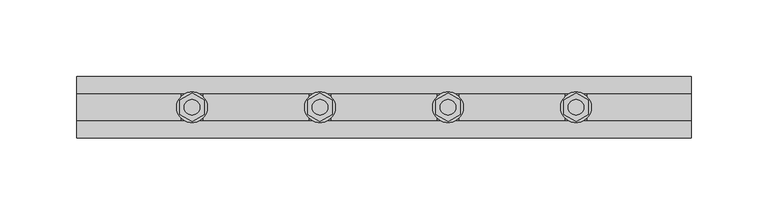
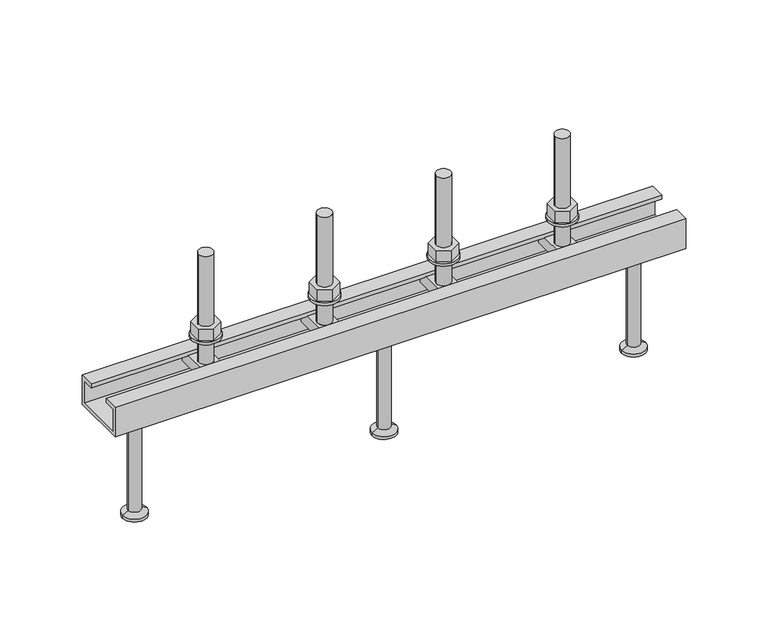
"""IFC4 building model written with IfcOpenShell, lengths in millimetres: fastener geometry, JTA-W JORDAHL® AnchorChannels : JTA-W L=400 mm."""

import ifcopenshell
import ifcopenshell.guid

model = None  # the IFC model being written
_history = None  # IfcOwnerHistory: only IFC2X3 demands one
_inside = {}  # id of a spatial element -> (the spatial element, [elements in it])
_under = {}  # id of a project, library or spatial element -> (it, [spatial elements below it])
_declared = {}  # id of a project -> (the project, [libraries it declares])
_typed = {}  # id of a type object -> (the type object, [elements of that type])
_made_of = {}  # id of a material, layer set ... -> (it, [elements and type objects made of it])


def new_model(schema):
    """Start an empty IFC model of exactly this schema.

    Asked for "IFC4X3", IfcOpenShell would pick the latest addendum, in which some entities
    have other attributes; the version numbers below select the first issue.
    IFC2X3 requires an IfcOwnerHistory on every rooted entity: one is made here for all.
    """
    global model, _history
    if schema == "IFC4X3":
        model = ifcopenshell.file(schema_version=(4, 3, 0, 0))
    else:
        model = ifcopenshell.file(schema=schema)
    _inside.clear()
    _under.clear()
    _declared.clear()
    _typed.clear()
    _made_of.clear()
    _history = None
    if model.schema == "IFC2X3":
        org = make("IfcOrganization", Name="unknown")
        user = make(
            "IfcPersonAndOrganization",
            ThePerson=make("IfcPerson", FamilyName="unknown"),
            TheOrganization=org,
        )
        app = make(
            "IfcApplication",
            ApplicationDeveloper=org,
            Version="unknown",
            ApplicationFullName="unknown",
            ApplicationIdentifier="unknown",
        )
        _history = make(
            "IfcOwnerHistory",
            OwningUser=user,
            OwningApplication=app,
            ChangeAction="ADDED",
            CreationDate=0,
        )
    return model


def make(cls, **values):
    """One entity of the class cls with the attributes given. An attribute that is None is left unset."""
    return model.create_entity(
        cls, **{name: value for name, value in values.items() if value is not None}
    )


def rooted(cls, **values):
    """An entity with a GlobalId (a new one), such as an element, a storey or a relation."""
    return make(cls, GlobalId=ifcopenshell.guid.new(), OwnerHistory=_history, **values)


def si_unit(unit_type, name, prefix=None):
    """IfcSIUnit, for example si_unit("LENGTHUNIT", "METRE", prefix="MILLI")."""
    return make("IfcSIUnit", UnitType=unit_type, Prefix=prefix, Name=name)


def assignment(units):
    """IfcUnitAssignment: the units of a project."""
    return None if units is None else make("IfcUnitAssignment", Units=units)


def point(xyz):
    """IfcCartesianPoint."""
    return None if xyz is None else make("IfcCartesianPoint", Coordinates=xyz)


def direction(xyz):
    """IfcDirection."""
    return None if xyz is None else make("IfcDirection", DirectionRatios=xyz)


def frame(location, z_axis=None, x_axis=None):
    """IfcAxis2Placement3D, a coordinate frame: its origin and axes. An axis left out is left unset."""
    return make(
        "IfcAxis2Placement3D",
        Location=point(location),
        Axis=direction(z_axis),
        RefDirection=direction(x_axis),
    )


def frame_2d(location, x_axis=None):
    """IfcAxis2Placement2D, a coordinate frame in the plane: its origin and x axis."""
    return make(
        "IfcAxis2Placement2D", Location=point(location), RefDirection=direction(x_axis)
    )


def origin():
    """The frame at (0, 0, 0) with its axes left unset."""
    return frame((0.0, 0.0, 0.0))


def place(relative_to, where):
    """IfcLocalPlacement: puts the frame where relative to a parent placement (None: the world)."""
    return make(
        "IfcLocalPlacement", PlacementRelTo=relative_to, RelativePlacement=where
    )


def context(
    kind, dimensions, precision=None, world=None, true_north=None, identifier=None
):
    """IfcGeometricRepresentationContext, for example the 3D "Model" context."""
    return make(
        "IfcGeometricRepresentationContext",
        ContextIdentifier=identifier,
        ContextType=kind,
        CoordinateSpaceDimension=dimensions,
        Precision=precision,
        WorldCoordinateSystem=world,
        TrueNorth=true_north,
    )


def project(units=None, contexts=None):
    """IfcProject with its units and contexts."""
    return rooted(
        "IfcProject",
        Name="project",
        RepresentationContexts=contexts,
        UnitsInContext=assignment(units),
    )


def spatial(cls, under=None, at=None, **own):
    """A site, building, storey or space (cls), placed at a placement, below another one or the project."""
    s = rooted(cls, ObjectPlacement=at, **own)
    if under is not None:
        _under.setdefault(under.id(), (under, []))[1].append(s)
    return s


def polyline(points):
    """IfcPolyline through the points."""
    return make("IfcPolyline", Points=[point(p) for p in points])


def circle_curve(where, radius):
    """IfcCircle in the frame where."""
    return make("IfcCircle", Position=where, Radius=radius)


def trimmed(basis, trim1, trim2, sense, master):
    """IfcTrimmedCurve: the piece of a basis curve between two trims."""
    return make(
        "IfcTrimmedCurve",
        BasisCurve=basis,
        Trim1=trim1,
        Trim2=trim2,
        SenseAgreement=sense,
        MasterRepresentation=master,
    )


def segment(curve, same_sense, transition):
    """IfcCompositeCurveSegment."""
    return make(
        "IfcCompositeCurveSegment",
        Transition=transition,
        SameSense=same_sense,
        ParentCurve=curve,
    )


def composite_curve(segments, self_intersect=None):
    """IfcCompositeCurve: segments joined end to end."""
    return make("IfcCompositeCurve", Segments=segments, SelfIntersect=self_intersect)


def outline(outer, holes=None, kind="AREA"):
    """IfcArbitraryClosedProfileDef: a profile drawn as a closed curve; with holes, ...WithVoids."""
    if holes is None:
        return make("IfcArbitraryClosedProfileDef", ProfileType=kind, OuterCurve=outer)
    return make(
        "IfcArbitraryProfileDefWithVoids",
        ProfileType=kind,
        OuterCurve=outer,
        InnerCurves=holes,
    )


def extrude(swept, where, along, depth):
    """IfcExtrudedAreaSolid: the profile swept, set in the frame where, extruded along a direction by depth."""
    return make(
        "IfcExtrudedAreaSolid",
        SweptArea=swept,
        Position=where,
        ExtrudedDirection=direction(along),
        Depth=depth,
    )


def shape(context_of_items, identifier, shape_type, items):
    """IfcShapeRepresentation: the items that make up one representation, for example the "Body"."""
    return make(
        "IfcShapeRepresentation",
        ContextOfItems=context_of_items,
        RepresentationIdentifier=identifier,
        RepresentationType=shape_type,
        Items=items,
    )


def source(mapping_origin, context_of_items, identifier, shape_type, items):
    """IfcRepresentationMap: a shape defined once, which mapped items show again and again."""
    return make(
        "IfcRepresentationMap",
        MappingOrigin=mapping_origin,
        MappedRepresentation=shape(context_of_items, identifier, shape_type, items),
    )


def transform(
    local_origin,
    x_axis=None,
    y_axis=None,
    z_axis=None,
    scale=None,
    scale2=None,
    scale3=None,
    uniform=True,
):
    """IfcCartesianTransformationOperator3D, or its non-uniform kind. x_axis, y_axis, z_axis: its Axis1, 2, 3."""
    if uniform:
        return make(
            "IfcCartesianTransformationOperator3D",
            Axis1=direction(x_axis),
            Axis2=direction(y_axis),
            LocalOrigin=point(local_origin),
            Scale=scale,
            Axis3=direction(z_axis),
        )
    return make(
        "IfcCartesianTransformationOperator3DnonUniform",
        Axis1=direction(x_axis),
        Axis2=direction(y_axis),
        LocalOrigin=point(local_origin),
        Scale=scale,
        Axis3=direction(z_axis),
        Scale2=scale2,
        Scale3=scale3,
    )


def mapped(mapping_source, mapping_target):
    """IfcMappedItem: shows the shape of a source again, moved by a transform."""
    return make(
        "IfcMappedItem", MappingSource=mapping_source, MappingTarget=mapping_target
    )


def made_of(thing, what):
    """Note that an element or type object is made of a material, layer set ...; save() writes the relation."""
    if what is not None:
        _made_of.setdefault(what.id(), (what, []))[1].append(thing)
    return thing


def element(
    cls,
    number,
    at=None,
    inside=None,
    cuts=None,
    type_object=None,
    material=None,
    context=None,
    identifier="Body",
    shape_type=None,
    held_by="IfcProductDefinitionShape",
    body=None,
    shapes=None,
    **own,
):
    """One element of the class cls, such as IfcWall. Its Tag is "e" and its number.

    at: its placement. inside: the storey or other place that contains it. cuts: it is an
    opening in that element (IfcRelVoidsElement). A single representation is given by context,
    identifier, shape_type and body (its items); several are given by shapes. held_by: the class
    of the entity that holds the representations. save() writes the other relations.
    """
    e = rooted(cls, Tag="e%d" % number, ObjectPlacement=at, **own)
    if body is not None:
        shapes = [shape(context, identifier, shape_type, body)]
    if shapes is not None:
        e.Representation = make(held_by, Representations=shapes)
    if inside is not None:
        _inside.setdefault(inside.id(), (inside, []))[1].append(e)
    if cuts is not None:
        rooted(
            "IfcRelVoidsElement", RelatingBuildingElement=cuts, RelatedOpeningElement=e
        )
    if type_object is not None:
        _typed.setdefault(type_object.id(), (type_object, []))[1].append(e)
    return made_of(e, material)


def aggregate(whole, parts):
    """IfcRelAggregates: a whole, such as a stair, and the parts it consists of."""
    return rooted("IfcRelAggregates", RelatingObject=whole, RelatedObjects=parts)


def save(model, path):
    """Write the relations noted so far, then the file.

    IfcRelAggregates (storeys below a building ...), IfcRelContainedInSpatialStructure (elements
    in a storey), IfcRelDefinesByType, IfcRelAssociatesMaterial and IfcRelDeclares: one each for
    every whole, place, type object, material and project.
    """
    for whole, parts in _under.values():
        aggregate(whole, parts)
    for where, things in _inside.values():
        rooted(
            "IfcRelContainedInSpatialStructure",
            RelatedElements=things,
            RelatingStructure=where,
        )
    for kind, things in _typed.values():
        rooted("IfcRelDefinesByType", RelatedObjects=things, RelatingType=kind)
    for what, things in _made_of.values():
        rooted("IfcRelAssociatesMaterial", RelatedObjects=things, RelatingMaterial=what)
    for by, libraries in _declared.values():
        rooted("IfcRelDeclares", RelatingContext=by, RelatedDefinitions=libraries)
    model.write(path)


def plane_surface(at):
    """IfcPlane: the flat surface through the origin of the frame at, square to its z axis."""
    return make("IfcPlane", Position=at)


def cylinder_surface(at, radius):
    """IfcCylindricalSurface: all points at the distance radius from the z axis of the frame at."""
    return make("IfcCylindricalSurface", Position=at, Radius=radius)


def revolved_surface(curve, axis_point, axis_direction):
    """IfcSurfaceOfRevolution: the curve turned about the line through axis_point along axis_direction."""
    return make(
        "IfcSurfaceOfRevolution",
        SweptCurve=make("IfcArbitraryOpenProfileDef", ProfileType="CURVE", Curve=curve),
        AxisPosition=make("IfcAxis1Placement", Location=point(axis_point), Axis=direction(axis_direction)),
    )


def advanced_brep(points, edges, surfaces, faces):
    """IfcAdvancedBrep: a solid bounded by faces that lie on surfaces and meet in shared edges.

    An edge is (start, end): straight between two places in points (the first is 0);
    or (start, end, curve); or (start, end, curve, False) where it runs against its curve.
    A face is (place in surfaces, loops), or (place, loops, False) where it looks against
    its surface's normal. A loop lists edges by number (the first is 1), with a minus sign
    where the edge is run from its end to its start. The first loop is the outer one.
    """
    corners = [point(p) for p in points]
    vertices = [make("IfcVertexPoint", VertexGeometry=c) for c in corners]
    made = []
    for start, end, *more in edges:
        made.append(
            make(
                "IfcEdgeCurve",
                EdgeStart=vertices[start],
                EdgeEnd=vertices[end],
                EdgeGeometry=more[0] if more else make("IfcPolyline", Points=[corners[start], corners[end]]),
                SameSense=more[1] if len(more) > 1 else True,
            )
        )
    hull = []
    for where, loops, *sense in faces:
        bounds = []
        for j, loop in enumerate(loops):
            ring = [make("IfcOrientedEdge", EdgeElement=made[abs(k) - 1], Orientation=k > 0) for k in loop]
            bounds.append(
                make(
                    "IfcFaceOuterBound" if j == 0 else "IfcFaceBound",
                    Bound=make("IfcEdgeLoop", EdgeList=ring),
                    Orientation=True,
                )
            )
        hull.append(make("IfcAdvancedFace", Bounds=bounds, FaceSurface=surfaces[where], SameSense=sense[0] if sense else True))
    return make("IfcAdvancedBrep", Outer=make("IfcClosedShell", CfsFaces=hull))


def fastener_f3c3fdf5(model_context):
    return source(origin(), model_context, "Body", "SolidModel", [
        extrude(outline(polyline([(241.6666667, 9.2376043), (249.6666667, 4.6188022), (249.6666667, -4.6188022), (241.6666667, -9.2376043), (233.6666667, -4.6188022), (233.6666667, 4.6188022), (241.6666667, 9.2376043)]), holes=[composite_curve([segment(trimmed(circle_curve(frame_2d((241.6666667, 0.0)), 5.0), [point((236.6666667, 0.0))], [point((246.6666667, 0.0))], True, "CARTESIAN"), True, "CONTINUOUS"), segment(trimmed(circle_curve(frame_2d((241.6666667, 0.0)), 5.0), [point((246.6666667, 0.0))], [point((236.6666667, 0.0))], True, "CARTESIAN"), True, "CONTINUOUS")], self_intersect=False)]), frame((0.0, 0.0, 17.0), z_axis=(0.0, 0.0, 1.0), x_axis=(1.0, 0.0, 0.0)), (0.0, 0.0, 1.0), 8.4),
        extrude(outline(composite_curve([segment(trimmed(circle_curve(frame_2d((241.6666667, 0.0)), 10.0), [point((231.6666667, 0.0))], [point((251.6666667, 0.0))], False, "CARTESIAN"), True, "CONTINUOUS"), segment(trimmed(circle_curve(frame_2d((241.6666667, 0.0)), 10.0), [point((251.6666667, 0.0))], [point((231.6666667, 0.0))], False, "CARTESIAN"), True, "CONTINUOUS")], self_intersect=False), holes=[composite_curve([segment(trimmed(circle_curve(frame_2d((241.6666667, 0.0)), 5.25), [point((236.4166667, 0.0))], [point((246.9166667, 0.0))], True, "CARTESIAN"), True, "CONTINUOUS"), segment(trimmed(circle_curve(frame_2d((241.6666667, 0.0)), 5.25), [point((246.9166667, 0.0))], [point((236.4166667, 0.0))], True, "CARTESIAN"), True, "CONTINUOUS")], self_intersect=False)]), frame((0.0, 0.0, 15.0), z_axis=(0.0, 0.0, 1.0), x_axis=(1.0, 0.0, 0.0)), (0.0, 0.0, 1.0), 2.0),
        extrude(outline(polyline([(158.3333333, 9.2376043), (166.3333333, 4.6188022), (166.3333333, -4.6188022), (158.3333333, -9.2376043), (150.3333333, -4.6188022), (150.3333333, 4.6188022), (158.3333333, 9.2376043)]), holes=[composite_curve([segment(trimmed(circle_curve(frame_2d((158.3333333, 0.0)), 5.0), [point((153.3333333, 0.0))], [point((163.3333333, 0.0))], True, "CARTESIAN"), True, "CONTINUOUS"), segment(trimmed(circle_curve(frame_2d((158.3333333, 0.0)), 5.0), [point((163.3333333, 0.0))], [point((153.3333333, 0.0))], True, "CARTESIAN"), True, "CONTINUOUS")], self_intersect=False)]), frame((0.0, 0.0, 17.0), z_axis=(0.0, 0.0, 1.0), x_axis=(1.0, 0.0, 0.0)), (0.0, 0.0, 1.0), 8.4),
        extrude(outline(composite_curve([segment(trimmed(circle_curve(frame_2d((158.3333333, 0.0)), 10.0), [point((148.3333333, 0.0))], [point((168.3333333, 0.0))], False, "CARTESIAN"), True, "CONTINUOUS"), segment(trimmed(circle_curve(frame_2d((158.3333333, 0.0)), 10.0), [point((168.3333333, 0.0))], [point((148.3333333, 0.0))], False, "CARTESIAN"), True, "CONTINUOUS")], self_intersect=False), holes=[composite_curve([segment(trimmed(circle_curve(frame_2d((158.3333333, 0.0)), 5.25), [point((153.0833333, 0.0))], [point((163.5833333, 0.0))], True, "CARTESIAN"), True, "CONTINUOUS"), segment(trimmed(circle_curve(frame_2d((158.3333333, 0.0)), 5.25), [point((163.5833333, 0.0))], [point((153.0833333, 0.0))], True, "CARTESIAN"), True, "CONTINUOUS")], self_intersect=False)]), frame((0.0, 0.0, 15.0), z_axis=(0.0, 0.0, 1.0), x_axis=(1.0, 0.0, 0.0)), (0.0, 0.0, 1.0), 2.0),
        advanced_brep(
        [(248.6666667, 16.25, -3.0), (248.6666667, -16.25, -3.0), (248.6666667, -16.25, -11.0), (248.6666667, 16.25, -11.0), (234.6666667, 16.25, -3.0), (234.6666667, 16.25, -11.0), (234.6666667, -16.25, -11.0), (234.6666667, -16.25, -3.0), (246.6666667, 0.0, -3.0), (236.6666667, 0.0, -3.0), (236.6666667, 0.0, 77.0), (246.6666667, 0.0, 77.0)],
        [
            (0, 1),
            (1, 2),
            (2, 3),
            (3, 0),
            (4, 5),
            (5, 6),
            (6, 7),
            (7, 4),
            (0, 4),
            (7, 1),
            (8, 9, circle_curve(frame((241.6666667, 0.0, -3.0), z_axis=(0.0, 0.0, -1.0), x_axis=(1.0, 0.0, 0.0)), 5.0)),
            (9, 8, circle_curve(frame((241.6666667, 0.0, -3.0), z_axis=(0.0, 0.0, -1.0), x_axis=(1.0, 0.0, 0.0)), 5.0)),
            (6, 2),
            (5, 3),
            (10, 11, circle_curve(frame((241.6666667, 0.0, 77.0), z_axis=(0.0, 0.0, 1.0), x_axis=(1.0, 0.0, 0.0)), 5.0)),
            (11, 10, circle_curve(frame((241.6666667, 0.0, 77.0), z_axis=(0.0, 0.0, 1.0), x_axis=(1.0, 0.0, 0.0)), 5.0)),
            (10, 9),
            (8, 11),
        ],
        [
            plane_surface(frame((248.6666667, -16.25, -3.0), z_axis=(1.0, 0.0, 0.0), x_axis=(0.0, -1.0, 0.0))),
            plane_surface(frame((234.6666667, -16.25, -3.0), z_axis=(-1.0, 0.0, 0.0), x_axis=(0.0, 1.0, 0.0))),
            plane_surface(frame((248.6666667, 16.25, -3.0), z_axis=(0.0, 0.0, 1.0), x_axis=(-1.0, 0.0, 0.0))),
            plane_surface(frame((248.6666667, -16.25, -3.0), z_axis=(0.0, -1.0, 0.0), x_axis=(-1.0, 0.0, 0.0))),
            plane_surface(frame((248.6666667, -16.25, -11.0), z_axis=(0.0, 0.0, -1.0), x_axis=(-1.0, 0.0, 0.0))),
            plane_surface(frame((248.6666667, 16.25, -11.0), z_axis=(0.0, 1.0, 0.0), x_axis=(-1.0, 0.0, 0.0))),
            plane_surface(frame((246.6666667, 0.0, 77.0), z_axis=(0.0, 0.0, 1.0), x_axis=(0.0, 1.0, 0.0))),
            cylinder_surface(frame((241.6666667, 0.0, -3.0), z_axis=(0.0, 0.0, 1.0), x_axis=(1.0, 0.0, 0.0)), 5.0),
        ],
        [
            (0, [[1, 2, 3, 4]]),
            (1, [[5, 6, 7, 8]]),
            (2, [[-1, 9, -8, 10], [11, 12]]),
            (3, [[-2, -10, -7, 13]]),
            (4, [[-3, -13, -6, 14]]),
            (5, [[-4, -14, -5, -9]]),
            (6, [[15, 16]]),
            (7, [[-15, 17, -11, 18]]),
            (7, [[-16, -18, -12, -17]]),
        ],
    ),
        advanced_brep(
        [(165.3333333, 16.25, -3.0), (165.3333333, -16.25, -3.0), (165.3333333, -16.25, -11.0), (165.3333333, 16.25, -11.0), (151.3333333, 16.25, -3.0), (151.3333333, 16.25, -11.0), (151.3333333, -16.25, -11.0), (151.3333333, -16.25, -3.0), (163.3333333, 0.0, -3.0), (153.3333333, 0.0, -3.0), (153.3333333, 0.0, 77.0), (163.3333333, 0.0, 77.0)],
        [
            (0, 1),
            (1, 2),
            (2, 3),
            (3, 0),
            (4, 5),
            (5, 6),
            (6, 7),
            (7, 4),
            (0, 4),
            (7, 1),
            (8, 9, circle_curve(frame((158.3333333, 0.0, -3.0), z_axis=(0.0, 0.0, -1.0), x_axis=(1.0, 0.0, 0.0)), 5.0)),
            (9, 8, circle_curve(frame((158.3333333, 0.0, -3.0), z_axis=(0.0, 0.0, -1.0), x_axis=(1.0, 0.0, 0.0)), 5.0)),
            (6, 2),
            (5, 3),
            (10, 11, circle_curve(frame((158.3333333, 0.0, 77.0), z_axis=(0.0, 0.0, 1.0), x_axis=(1.0, 0.0, 0.0)), 5.0)),
            (11, 10, circle_curve(frame((158.3333333, 0.0, 77.0), z_axis=(0.0, 0.0, 1.0), x_axis=(1.0, 0.0, 0.0)), 5.0)),
            (10, 9),
            (8, 11),
        ],
        [
            plane_surface(frame((165.3333333, -16.25, -3.0), z_axis=(1.0, 0.0, 0.0), x_axis=(0.0, -1.0, 0.0))),
            plane_surface(frame((151.3333333, -16.25, -3.0), z_axis=(-1.0, 0.0, 0.0), x_axis=(0.0, 1.0, 0.0))),
            plane_surface(frame((165.3333333, 16.25, -3.0), z_axis=(0.0, 0.0, 1.0), x_axis=(-1.0, 0.0, 0.0))),
            plane_surface(frame((165.3333333, -16.25, -3.0), z_axis=(0.0, -1.0, 0.0), x_axis=(-1.0, 0.0, 0.0))),
            plane_surface(frame((165.3333333, -16.25, -11.0), z_axis=(0.0, 0.0, -1.0), x_axis=(-1.0, 0.0, 0.0))),
            plane_surface(frame((165.3333333, 16.25, -11.0), z_axis=(0.0, 1.0, 0.0), x_axis=(-1.0, 0.0, 0.0))),
            plane_surface(frame((163.3333333, 0.0, 77.0), z_axis=(0.0, 0.0, 1.0), x_axis=(0.0, 1.0, 0.0))),
            cylinder_surface(frame((158.3333333, 0.0, -3.0), z_axis=(0.0, 0.0, 1.0), x_axis=(1.0, 0.0, 0.0)), 5.0),
        ],
        [
            (0, [[1, 2, 3, 4]]),
            (1, [[5, 6, 7, 8]]),
            (2, [[-1, 9, -8, 10], [11, 12]]),
            (3, [[-2, -10, -7, 13]]),
            (4, [[-3, -13, -6, 14]]),
            (5, [[-4, -14, -5, -9]]),
            (6, [[15, 16]]),
            (7, [[-15, 17, -11, 18]]),
            (7, [[-16, -18, -12, -17]]),
        ],
    ),
        advanced_brep(
        [(200.0, 0.0, -22.0), (213.5, 0.0, -22.0), (186.5, 0.0, -22.0), (191.5, 0.0, -100.0), (208.5, 0.0, -100.0), (200.0, 0.0, -100.0), (191.5, 0.0, -98.0), (208.5, 0.0, -98.0), (195.5, 0.0, -95.6905989), (204.5, 0.0, -95.6905989), (195.5, 0.0, -24.5), (204.5, 0.0, -24.5)],
        [
            (0, 1),
            (1, 2, circle_curve(frame((200.0, 0.0, -22.0), z_axis=(0.0, 0.0, 1.0), x_axis=(1.0, 0.0, 0.0)), 13.5)),
            (2, 0),
            (2, 1, circle_curve(frame((200.0, 0.0, -22.0), z_axis=(0.0, 0.0, 1.0), x_axis=(1.0, 0.0, 0.0)), 13.5)),
            (3, 4, circle_curve(frame((200.0, 0.0, -100.0), z_axis=(0.0, 0.0, -1.0), x_axis=(1.0, 0.0, 0.0)), 8.5)),
            (4, 5),
            (5, 3),
            (4, 3, circle_curve(frame((200.0, 0.0, -100.0), z_axis=(0.0, 0.0, -1.0), x_axis=(1.0, 0.0, 0.0)), 8.5)),
            (6, 7, circle_curve(frame((200.0, 0.0, -98.0), z_axis=(0.0, 0.0, -1.0), x_axis=(1.0, 0.0, 0.0)), 8.5)),
            (7, 4),
            (3, 6),
            (7, 6, circle_curve(frame((200.0, 0.0, -98.0), z_axis=(0.0, 0.0, -1.0), x_axis=(1.0, 0.0, 0.0)), 8.5)),
            (8, 9, circle_curve(frame((200.0, 0.0, -95.6905989), z_axis=(0.0, 0.0, -1.0), x_axis=(1.0, 0.0, 0.0)), 4.5)),
            (9, 7),
            (6, 8),
            (9, 8, circle_curve(frame((200.0, 0.0, -95.6905989), z_axis=(0.0, 0.0, -1.0), x_axis=(1.0, 0.0, 0.0)), 4.5)),
            (10, 11, circle_curve(frame((200.0, 0.0, -24.5), z_axis=(0.0, 0.0, -1.0), x_axis=(1.0, 0.0, 0.0)), 4.5)),
            (11, 9),
            (8, 10),
            (11, 10, circle_curve(frame((200.0, 0.0, -24.5), z_axis=(0.0, 0.0, -1.0), x_axis=(1.0, 0.0, 0.0)), 4.5)),
            (1, 11),
            (10, 2),
        ],
        [
            plane_surface(frame((200.0, 0.0, -22.0), z_axis=(0.0, 0.0, 1.0), x_axis=(1.0, 0.0, 0.0))),
            plane_surface(frame((200.0, 0.0, -100.0), z_axis=(0.0, 0.0, -1.0), x_axis=(1.0, 0.0, 0.0))),
            cylinder_surface(frame((200.0, 0.0, 2292.3150031), z_axis=(0.0, 0.0, 1.0), x_axis=(1.0, 0.0, 0.0)), 8.5),
            revolved_surface(polyline([(208.5, 0.0, -98.0), (204.5, 0.0, -95.6905989)]), (200.0, 0.0, 2292.3150031), (0.0, 0.0, 1.0)),
            cylinder_surface(frame((200.0, 0.0, 2292.3150031), z_axis=(0.0, 0.0, 1.0), x_axis=(1.0, 0.0, 0.0)), 4.5),
            revolved_surface(polyline([(204.5, 0.0, -24.5), (213.5, 0.0, -22.0)]), (200.0, 0.0, 2292.3150031), (0.0, 0.0, 1.0)),
        ],
        [
            (0, [[1, 2, 3]]),
            (0, [[-3, 4, -1]]),
            (1, [[5, 6, 7]]),
            (1, [[8, -7, -6]]),
            (2, [[9, 10, -5, 11]]),
            (2, [[12, -11, -8, -10]]),
            (3, [[13, 14, -9, 15]]),
            (3, [[16, -15, -12, -14]]),
            (4, [[17, 18, -13, 19]]),
            (4, [[20, -19, -16, -18]]),
            (5, [[-2, 21, -17, 22]]),
            (5, [[-4, -22, -20, -21]]),
        ],
    ),
        extrude(outline(polyline([(325.0, 9.2376043), (333.0, 4.6188022), (333.0, -4.6188022), (325.0, -9.2376043), (317.0, -4.6188022), (317.0, 4.6188022), (325.0, 9.2376043)]), holes=[composite_curve([segment(trimmed(circle_curve(frame_2d((325.0, 0.0)), 5.0), [point((320.0, 0.0))], [point((330.0, 0.0))], True, "CARTESIAN"), True, "CONTINUOUS"), segment(trimmed(circle_curve(frame_2d((325.0, 0.0)), 5.0), [point((330.0, 0.0))], [point((320.0, 0.0))], True, "CARTESIAN"), True, "CONTINUOUS")], self_intersect=False)]), frame((0.0, 0.0, 17.0), z_axis=(0.0, 0.0, 1.0), x_axis=(1.0, 0.0, 0.0)), (0.0, 0.0, 1.0), 8.4),
        extrude(outline(composite_curve([segment(trimmed(circle_curve(frame_2d((325.0, 0.0)), 10.0), [point((315.0, 0.0))], [point((335.0, 0.0))], False, "CARTESIAN"), True, "CONTINUOUS"), segment(trimmed(circle_curve(frame_2d((325.0, 0.0)), 10.0), [point((335.0, 0.0))], [point((315.0, 0.0))], False, "CARTESIAN"), True, "CONTINUOUS")], self_intersect=False), holes=[composite_curve([segment(trimmed(circle_curve(frame_2d((325.0, 0.0)), 5.25), [point((319.75, 0.0))], [point((330.25, 0.0))], True, "CARTESIAN"), True, "CONTINUOUS"), segment(trimmed(circle_curve(frame_2d((325.0, 0.0)), 5.25), [point((330.25, 0.0))], [point((319.75, 0.0))], True, "CARTESIAN"), True, "CONTINUOUS")], self_intersect=False)]), frame((0.0, 0.0, 15.0), z_axis=(0.0, 0.0, 1.0), x_axis=(1.0, 0.0, 0.0)), (0.0, 0.0, 1.0), 2.0),
        extrude(outline(polyline([(75.0, 9.2376043), (83.0, 4.6188022), (83.0, -4.6188022), (75.0, -9.2376043), (67.0, -4.6188022), (67.0, 4.6188022), (75.0, 9.2376043)]), holes=[composite_curve([segment(trimmed(circle_curve(frame_2d((75.0, 0.0)), 5.0), [point((70.0, 0.0))], [point((80.0, 0.0))], True, "CARTESIAN"), True, "CONTINUOUS"), segment(trimmed(circle_curve(frame_2d((75.0, 0.0)), 5.0), [point((80.0, 0.0))], [point((70.0, 0.0))], True, "CARTESIAN"), True, "CONTINUOUS")], self_intersect=False)]), frame((0.0, 0.0, 17.0), z_axis=(0.0, 0.0, 1.0), x_axis=(1.0, 0.0, 0.0)), (0.0, 0.0, 1.0), 8.4),
        extrude(outline(composite_curve([segment(trimmed(circle_curve(frame_2d((75.0, 0.0)), 10.0), [point((65.0, 0.0))], [point((85.0, 0.0))], False, "CARTESIAN"), True, "CONTINUOUS"), segment(trimmed(circle_curve(frame_2d((75.0, 0.0)), 10.0), [point((85.0, 0.0))], [point((65.0, 0.0))], False, "CARTESIAN"), True, "CONTINUOUS")], self_intersect=False), holes=[composite_curve([segment(trimmed(circle_curve(frame_2d((75.0, 0.0)), 5.25), [point((69.75, 0.0))], [point((80.25, 0.0))], True, "CARTESIAN"), True, "CONTINUOUS"), segment(trimmed(circle_curve(frame_2d((75.0, 0.0)), 5.25), [point((80.25, 0.0))], [point((69.75, 0.0))], True, "CARTESIAN"), True, "CONTINUOUS")], self_intersect=False)]), frame((0.0, 0.0, 15.0), z_axis=(0.0, 0.0, 1.0), x_axis=(1.0, 0.0, 0.0)), (0.0, 0.0, 1.0), 2.0),
        advanced_brep(
        [(332.0, 16.25, -3.0), (332.0, -16.25, -3.0), (332.0, -16.25, -11.0), (332.0, 16.25, -11.0), (318.0, 16.25, -3.0), (318.0, 16.25, -11.0), (318.0, -16.25, -11.0), (318.0, -16.25, -3.0), (330.0, 0.0, -3.0), (320.0, 0.0, -3.0), (320.0, 0.0, 77.0), (330.0, 0.0, 77.0)],
        [
            (0, 1),
            (1, 2),
            (2, 3),
            (3, 0),
            (4, 5),
            (5, 6),
            (6, 7),
            (7, 4),
            (0, 4),
            (7, 1),
            (8, 9, circle_curve(frame((325.0, 0.0, -3.0), z_axis=(0.0, 0.0, -1.0), x_axis=(1.0, 0.0, 0.0)), 5.0)),
            (9, 8, circle_curve(frame((325.0, 0.0, -3.0), z_axis=(0.0, 0.0, -1.0), x_axis=(1.0, 0.0, 0.0)), 5.0)),
            (6, 2),
            (5, 3),
            (10, 11, circle_curve(frame((325.0, 0.0, 77.0), z_axis=(0.0, 0.0, 1.0), x_axis=(1.0, 0.0, 0.0)), 5.0)),
            (11, 10, circle_curve(frame((325.0, 0.0, 77.0), z_axis=(0.0, 0.0, 1.0), x_axis=(1.0, 0.0, 0.0)), 5.0)),
            (10, 9),
            (8, 11),
        ],
        [
            plane_surface(frame((332.0, -16.25, -3.0), z_axis=(1.0, 0.0, 0.0), x_axis=(0.0, -1.0, 0.0))),
            plane_surface(frame((318.0, -16.25, -3.0), z_axis=(-1.0, 0.0, 0.0), x_axis=(0.0, 1.0, 0.0))),
            plane_surface(frame((332.0, 16.25, -3.0), z_axis=(0.0, 0.0, 1.0), x_axis=(-1.0, 0.0, 0.0))),
            plane_surface(frame((332.0, -16.25, -3.0), z_axis=(0.0, -1.0, 0.0), x_axis=(-1.0, 0.0, 0.0))),
            plane_surface(frame((332.0, -16.25, -11.0), z_axis=(0.0, 0.0, -1.0), x_axis=(-1.0, 0.0, 0.0))),
            plane_surface(frame((332.0, 16.25, -11.0), z_axis=(0.0, 1.0, 0.0), x_axis=(-1.0, 0.0, 0.0))),
            plane_surface(frame((330.0, 0.0, 77.0), z_axis=(0.0, 0.0, 1.0), x_axis=(0.0, 1.0, 0.0))),
            cylinder_surface(frame((325.0, 0.0, -3.0), z_axis=(0.0, 0.0, 1.0), x_axis=(1.0, 0.0, 0.0)), 5.0),
        ],
        [
            (0, [[1, 2, 3, 4]]),
            (1, [[5, 6, 7, 8]]),
            (2, [[-1, 9, -8, 10], [11, 12]]),
            (3, [[-2, -10, -7, 13]]),
            (4, [[-3, -13, -6, 14]]),
            (5, [[-4, -14, -5, -9]]),
            (6, [[15, 16]]),
            (7, [[-15, 17, -11, 18]]),
            (7, [[-16, -18, -12, -17]]),
        ],
    ),
        advanced_brep(
        [(82.0, 16.25, -3.0), (82.0, -16.25, -3.0), (82.0, -16.25, -11.0), (82.0, 16.25, -11.0), (68.0, 16.25, -3.0), (68.0, 16.25, -11.0), (68.0, -16.25, -11.0), (68.0, -16.25, -3.0), (80.0, 0.0, -3.0), (70.0, 0.0, -3.0), (70.0, 0.0, 77.0), (80.0, 0.0, 77.0)],
        [
            (0, 1),
            (1, 2),
            (2, 3),
            (3, 0),
            (4, 5),
            (5, 6),
            (6, 7),
            (7, 4),
            (0, 4),
            (7, 1),
            (8, 9, circle_curve(frame((75.0, 0.0, -3.0), z_axis=(0.0, 0.0, -1.0), x_axis=(1.0, 0.0, 0.0)), 5.0)),
            (9, 8, circle_curve(frame((75.0, 0.0, -3.0), z_axis=(0.0, 0.0, -1.0), x_axis=(1.0, 0.0, 0.0)), 5.0)),
            (6, 2),
            (5, 3),
            (10, 11, circle_curve(frame((75.0, 0.0, 77.0), z_axis=(0.0, 0.0, 1.0), x_axis=(1.0, 0.0, 0.0)), 5.0)),
            (11, 10, circle_curve(frame((75.0, 0.0, 77.0), z_axis=(0.0, 0.0, 1.0), x_axis=(1.0, 0.0, 0.0)), 5.0)),
            (10, 9),
            (8, 11),
        ],
        [
            plane_surface(frame((82.0, -16.25, -3.0), z_axis=(1.0, 0.0, 0.0), x_axis=(0.0, -1.0, 0.0))),
            plane_surface(frame((68.0, -16.25, -3.0), z_axis=(-1.0, 0.0, 0.0), x_axis=(0.0, 1.0, 0.0))),
            plane_surface(frame((82.0, 16.25, -3.0), z_axis=(0.0, 0.0, 1.0), x_axis=(-1.0, 0.0, 0.0))),
            plane_surface(frame((82.0, -16.25, -3.0), z_axis=(0.0, -1.0, 0.0), x_axis=(-1.0, 0.0, 0.0))),
            plane_surface(frame((82.0, -16.25, -11.0), z_axis=(0.0, 0.0, -1.0), x_axis=(-1.0, 0.0, 0.0))),
            plane_surface(frame((82.0, 16.25, -11.0), z_axis=(0.0, 1.0, 0.0), x_axis=(-1.0, 0.0, 0.0))),
            plane_surface(frame((80.0, 0.0, 77.0), z_axis=(0.0, 0.0, 1.0), x_axis=(0.0, 1.0, 0.0))),
            cylinder_surface(frame((75.0, 0.0, -3.0), z_axis=(0.0, 0.0, 1.0), x_axis=(1.0, 0.0, 0.0)), 5.0),
        ],
        [
            (0, [[1, 2, 3, 4]]),
            (1, [[5, 6, 7, 8]]),
            (2, [[-1, 9, -8, 10], [11, 12]]),
            (3, [[-2, -10, -7, 13]]),
            (4, [[-3, -13, -6, 14]]),
            (5, [[-4, -14, -5, -9]]),
            (6, [[15, 16]]),
            (7, [[-15, 17, -11, 18]]),
            (7, [[-16, -18, -12, -17]]),
        ],
    ),
        advanced_brep(
        [(375.0, 0.0, -22.0), (388.5, 0.0, -22.0), (361.5, 0.0, -22.0), (366.5, 0.0, -100.0), (383.5, 0.0, -100.0), (375.0, 0.0, -100.0), (366.5, 0.0, -98.0), (383.5, 0.0, -98.0), (370.5, 0.0, -95.6905989), (379.5, 0.0, -95.6905989), (370.5, 0.0, -24.5), (379.5, 0.0, -24.5)],
        [
            (0, 1),
            (1, 2, circle_curve(frame((375.0, 0.0, -22.0), z_axis=(0.0, 0.0, 1.0), x_axis=(1.0, 0.0, 0.0)), 13.5)),
            (2, 0),
            (2, 1, circle_curve(frame((375.0, 0.0, -22.0), z_axis=(0.0, 0.0, 1.0), x_axis=(1.0, 0.0, 0.0)), 13.5)),
            (3, 4, circle_curve(frame((375.0, 0.0, -100.0), z_axis=(0.0, 0.0, -1.0), x_axis=(1.0, 0.0, 0.0)), 8.5)),
            (4, 5),
            (5, 3),
            (4, 3, circle_curve(frame((375.0, 0.0, -100.0), z_axis=(0.0, 0.0, -1.0), x_axis=(1.0, 0.0, 0.0)), 8.5)),
            (6, 7, circle_curve(frame((375.0, 0.0, -98.0), z_axis=(0.0, 0.0, -1.0), x_axis=(1.0, 0.0, 0.0)), 8.5)),
            (7, 4),
            (3, 6),
            (7, 6, circle_curve(frame((375.0, 0.0, -98.0), z_axis=(0.0, 0.0, -1.0), x_axis=(1.0, 0.0, 0.0)), 8.5)),
            (8, 9, circle_curve(frame((375.0, 0.0, -95.6905989), z_axis=(0.0, 0.0, -1.0), x_axis=(1.0, 0.0, 0.0)), 4.5)),
            (9, 7),
            (6, 8),
            (9, 8, circle_curve(frame((375.0, 0.0, -95.6905989), z_axis=(0.0, 0.0, -1.0), x_axis=(1.0, 0.0, 0.0)), 4.5)),
            (10, 11, circle_curve(frame((375.0, 0.0, -24.5), z_axis=(0.0, 0.0, -1.0), x_axis=(1.0, 0.0, 0.0)), 4.5)),
            (11, 9),
            (8, 10),
            (11, 10, circle_curve(frame((375.0, 0.0, -24.5), z_axis=(0.0, 0.0, -1.0), x_axis=(1.0, 0.0, 0.0)), 4.5)),
            (1, 11),
            (10, 2),
        ],
        [
            plane_surface(frame((375.0, 0.0, -22.0), z_axis=(0.0, 0.0, 1.0), x_axis=(1.0, 0.0, 0.0))),
            plane_surface(frame((375.0, 0.0, -100.0), z_axis=(0.0, 0.0, -1.0), x_axis=(1.0, 0.0, 0.0))),
            cylinder_surface(frame((375.0, 0.0, 2292.3150031), z_axis=(0.0, 0.0, 1.0), x_axis=(1.0, 0.0, 0.0)), 8.5),
            revolved_surface(polyline([(383.5, 0.0, -98.0), (379.5, 0.0, -95.6905989)]), (375.0, 0.0, 2292.3150031), (0.0, 0.0, 1.0)),
            cylinder_surface(frame((375.0, 0.0, 2292.3150031), z_axis=(0.0, 0.0, 1.0), x_axis=(1.0, 0.0, 0.0)), 4.5),
            revolved_surface(polyline([(379.5, 0.0, -24.5), (388.5, 0.0, -22.0)]), (375.0, 0.0, 2292.3150031), (0.0, 0.0, 1.0)),
        ],
        [
            (0, [[1, 2, 3]]),
            (0, [[-3, 4, -1]]),
            (1, [[5, 6, 7]]),
            (1, [[8, -7, -6]]),
            (2, [[9, 10, -5, 11]]),
            (2, [[12, -11, -8, -10]]),
            (3, [[13, 14, -9, 15]]),
            (3, [[16, -15, -12, -14]]),
            (4, [[17, 18, -13, 19]]),
            (4, [[20, -19, -16, -18]]),
            (5, [[-2, 21, -17, 22]]),
            (5, [[-4, -22, -20, -21]]),
        ],
    ),
        advanced_brep(
        [(25.0, 0.0, -22.0), (38.5, 0.0, -22.0), (11.5, 0.0, -22.0), (16.5, 0.0, -100.0), (33.5, 0.0, -100.0), (25.0, 0.0, -100.0), (16.5, 0.0, -98.0), (33.5, 0.0, -98.0), (20.5, 0.0, -95.6905989), (29.5, 0.0, -95.6905989), (20.5, 0.0, -24.5), (29.5, 0.0, -24.5)],
        [
            (0, 1),
            (1, 2, circle_curve(frame((25.0, 0.0, -22.0), z_axis=(0.0, 0.0, 1.0), x_axis=(1.0, 0.0, 0.0)), 13.5)),
            (2, 0),
            (2, 1, circle_curve(frame((25.0, 0.0, -22.0), z_axis=(0.0, 0.0, 1.0), x_axis=(1.0, 0.0, 0.0)), 13.5)),
            (3, 4, circle_curve(frame((25.0, 0.0, -100.0), z_axis=(0.0, 0.0, -1.0), x_axis=(1.0, 0.0, 0.0)), 8.5)),
            (4, 5),
            (5, 3),
            (4, 3, circle_curve(frame((25.0, 0.0, -100.0), z_axis=(0.0, 0.0, -1.0), x_axis=(1.0, 0.0, 0.0)), 8.5)),
            (6, 7, circle_curve(frame((25.0, 0.0, -98.0), z_axis=(0.0, 0.0, -1.0), x_axis=(1.0, 0.0, 0.0)), 8.5)),
            (7, 4),
            (3, 6),
            (7, 6, circle_curve(frame((25.0, 0.0, -98.0), z_axis=(0.0, 0.0, -1.0), x_axis=(1.0, 0.0, 0.0)), 8.5)),
            (8, 9, circle_curve(frame((25.0, 0.0, -95.6905989), z_axis=(0.0, 0.0, -1.0), x_axis=(1.0, 0.0, 0.0)), 4.5)),
            (9, 7),
            (6, 8),
            (9, 8, circle_curve(frame((25.0, 0.0, -95.6905989), z_axis=(0.0, 0.0, -1.0), x_axis=(1.0, 0.0, 0.0)), 4.5)),
            (10, 11, circle_curve(frame((25.0, 0.0, -24.5), z_axis=(0.0, 0.0, -1.0), x_axis=(1.0, 0.0, 0.0)), 4.5)),
            (11, 9),
            (8, 10),
            (11, 10, circle_curve(frame((25.0, 0.0, -24.5), z_axis=(0.0, 0.0, -1.0), x_axis=(1.0, 0.0, 0.0)), 4.5)),
            (1, 11),
            (10, 2),
        ],
        [
            plane_surface(frame((25.0, 0.0, -22.0), z_axis=(0.0, 0.0, 1.0), x_axis=(1.0, 0.0, 0.0))),
            plane_surface(frame((25.0, 0.0, -100.0), z_axis=(0.0, 0.0, -1.0), x_axis=(1.0, 0.0, 0.0))),
            cylinder_surface(frame((25.0, 0.0, 2292.3150031), z_axis=(0.0, 0.0, 1.0), x_axis=(1.0, 0.0, 0.0)), 8.5),
            revolved_surface(polyline([(33.5, 0.0, -98.0), (29.5, 0.0, -95.6905989)]), (25.0, 0.0, 2292.3150031), (0.0, 0.0, 1.0)),
            cylinder_surface(frame((25.0, 0.0, 2292.3150031), z_axis=(0.0, 0.0, 1.0), x_axis=(1.0, 0.0, 0.0)), 4.5),
            revolved_surface(polyline([(29.5, 0.0, -24.5), (38.5, 0.0, -22.0)]), (25.0, 0.0, 2292.3150031), (0.0, 0.0, 1.0)),
        ],
        [
            (0, [[1, 2, 3]]),
            (0, [[-3, 4, -1]]),
            (1, [[5, 6, 7]]),
            (1, [[8, -7, -6]]),
            (2, [[9, 10, -5, 11]]),
            (2, [[12, -11, -8, -10]]),
            (3, [[13, 14, -9, 15]]),
            (3, [[16, -15, -12, -14]]),
            (4, [[17, 18, -13, 19]]),
            (4, [[20, -19, -16, -18]]),
            (5, [[-2, 21, -17, 22]]),
            (5, [[-4, -22, -20, -21]]),
        ],
    ),
        extrude(outline(polyline([(20.0, 0.0), (20.0, -22.0), (-20.0, -22.0), (-20.0, 0.0), (-9.0, 0.0), (-9.0, -3.0), (-17.5, -3.0), (-17.5, -19.5), (17.5, -19.5), (17.5, -3.0), (9.0, -3.0), (9.0, 0.0), (20.0, 0.0)])), frame((0.0, 0.0, 0.0), z_axis=(1.0, 0.0, 0.0), x_axis=(0.0, 1.0, 0.0)), (0.0, 0.0, 1.0), 400.0),
    ])


if __name__ == "__main__":
    model = new_model("IFC4")
    model_context = context("Model", 3, world=origin())
    ifc_project = project(units=[si_unit("LENGTHUNIT", "METRE", prefix="MILLI")], contexts=[model_context])
    site = spatial("IfcSite", under=ifc_project)
    building = spatial("IfcBuilding", under=site)
    placement = place(None, origin())
    fastener_shape = fastener_f3c3fdf5(model_context)
    element("IfcFastener", 1, ObjectType="JTA-W JORDAHL® AnchorChannels : JTA-W L=400 mm", at=placement, inside=building, context=model_context, shape_type="MappedRepresentation", body=[
        mapped(fastener_shape, transform((0.0, 0.0, 0.0), x_axis=(1.0, 0.0, 0.0), y_axis=(0.0, 1.0, 0.0), z_axis=(0.0, 0.0, 1.0))),
    ])
    save(model, "model.ifc")
